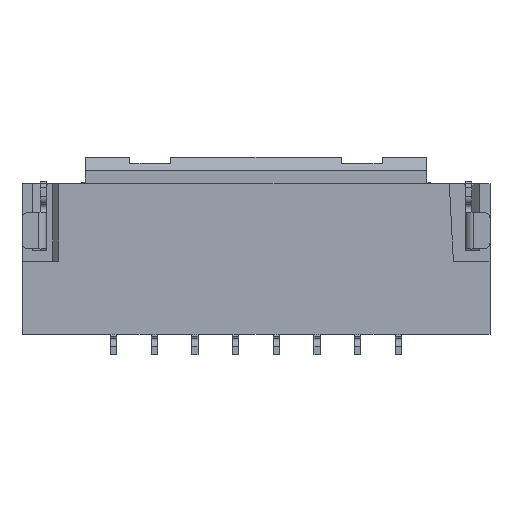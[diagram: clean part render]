
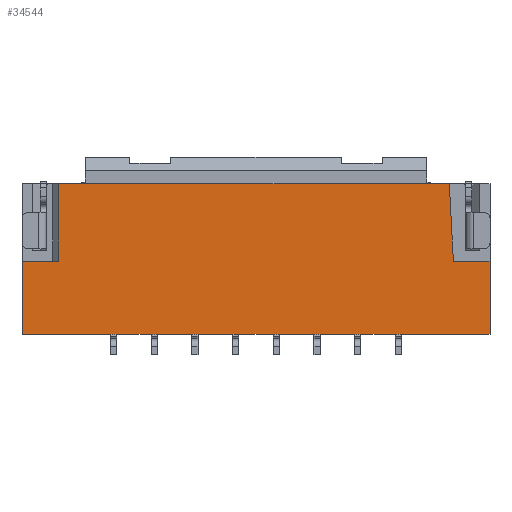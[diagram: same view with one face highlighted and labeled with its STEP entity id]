
A CAD part, front view. The second image highlights one B-rep face of the part: STEP entity #34544.
In plain terms, the highlighted planar face has unit normal (0, -1, 0).
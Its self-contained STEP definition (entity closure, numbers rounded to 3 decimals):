
#9054=DIRECTION('',(1.,0.,0.));
#9055=VECTOR('',#9054,9.6);
#9056=CARTESIAN_POINT('',(0.9,0.005,0.));
#9057=LINE('',#9056,#9055);
#9058=DIRECTION('',(0.053,0.,-0.999));
#9059=VECTOR('',#9058,1.903);
#9060=CARTESIAN_POINT('',(10.5,0.005,0.));
#9061=LINE('',#9060,#9059);
#9062=DIRECTION('',(0.,0.,-1.));
#9063=VECTOR('',#9062,1.8);
#9064=CARTESIAN_POINT('',(11.5,0.005,-1.9));
#9065=LINE('',#9064,#9063);
#9066=DIRECTION('',(-1.,0.,0.));
#9067=VECTOR('',#9066,11.5);
#9068=CARTESIAN_POINT('',(11.5,0.005,-3.7));
#9069=LINE('',#9068,#9067);
#9070=DIRECTION('',(0.,0.,1.));
#9071=VECTOR('',#9070,1.8);
#9072=CARTESIAN_POINT('',(0.,0.005,-3.7));
#9073=LINE('',#9072,#9071);
#9082=DIRECTION('',(-1.,0.,0.));
#9083=VECTOR('',#9082,0.9);
#9084=CARTESIAN_POINT('',(11.5,0.005,-1.9));
#9085=LINE('',#9084,#9083);
#9110=DIRECTION('',(-1.,0.,0.));
#9111=VECTOR('',#9110,0.9);
#9112=CARTESIAN_POINT('',(0.9,0.005,-1.9));
#9113=LINE('',#9112,#9111);
#9118=DIRECTION('',(0.,0.,-1.));
#9119=VECTOR('',#9118,1.9);
#9120=CARTESIAN_POINT('',(0.9,0.005,0.));
#9121=LINE('',#9120,#9119);
#13579=CARTESIAN_POINT('',(0.9,0.005,0.));
#13581=VERTEX_POINT('',#13579);
#13786=CARTESIAN_POINT('',(11.5,0.005,-3.7));
#13788=VERTEX_POINT('',#13786);
#13805=CARTESIAN_POINT('',(0.,0.005,-3.7));
#13806=CARTESIAN_POINT('',(0.,0.005,-1.9));
#13807=VERTEX_POINT('',#13805);
#13808=VERTEX_POINT('',#13806);
#14260=CARTESIAN_POINT('',(11.5,0.005,-1.9));
#14262=VERTEX_POINT('',#14260);
#14263=CARTESIAN_POINT('',(10.5,0.005,0.));
#14264=VERTEX_POINT('',#14263);
#14265=CARTESIAN_POINT('',(10.6,0.005,-1.9));
#14266=VERTEX_POINT('',#14265);
#14267=CARTESIAN_POINT('',(0.9,0.005,-1.9));
#14268=VERTEX_POINT('',#14267);
#34524=CARTESIAN_POINT('',(5.75,0.005,-1.85));
#34525=DIRECTION('',(0.,1.,0.));
#34526=DIRECTION('',(1.,0.,0.));
#34527=AXIS2_PLACEMENT_3D('',#34524,#34525,#34526);
#34528=PLANE('',#34527);
#34529=ORIENTED_EDGE('',*,*,#17780,.T.);
#34531=ORIENTED_EDGE('',*,*,#34530,.T.);
#34533=ORIENTED_EDGE('',*,*,#34532,.F.);
#34534=ORIENTED_EDGE('',*,*,#34506,.T.);
#34535=ORIENTED_EDGE('',*,*,#18225,.T.);
#34537=ORIENTED_EDGE('',*,*,#34536,.T.);
#34539=ORIENTED_EDGE('',*,*,#34538,.F.);
#34541=ORIENTED_EDGE('',*,*,#34540,.F.);
#34542=EDGE_LOOP('',(#34529,#34531,#34533,#34534,#34535,#34537,#34539,#34541));
#34543=FACE_OUTER_BOUND('',#34542,.F.);
#34544=ADVANCED_FACE('',(#34543),#34528,.F.);
#17780=EDGE_CURVE('',#13581,#14264,#9057,.T.);
#18225=EDGE_CURVE('',#13788,#13807,#9069,.T.);
#34506=EDGE_CURVE('',#14262,#13788,#9065,.T.);
#34530=EDGE_CURVE('',#14264,#14266,#9061,.T.);
#34532=EDGE_CURVE('',#14262,#14266,#9085,.T.);
#34536=EDGE_CURVE('',#13807,#13808,#9073,.T.);
#34538=EDGE_CURVE('',#14268,#13808,#9113,.T.);
#34540=EDGE_CURVE('',#13581,#14268,#9121,.T.);
